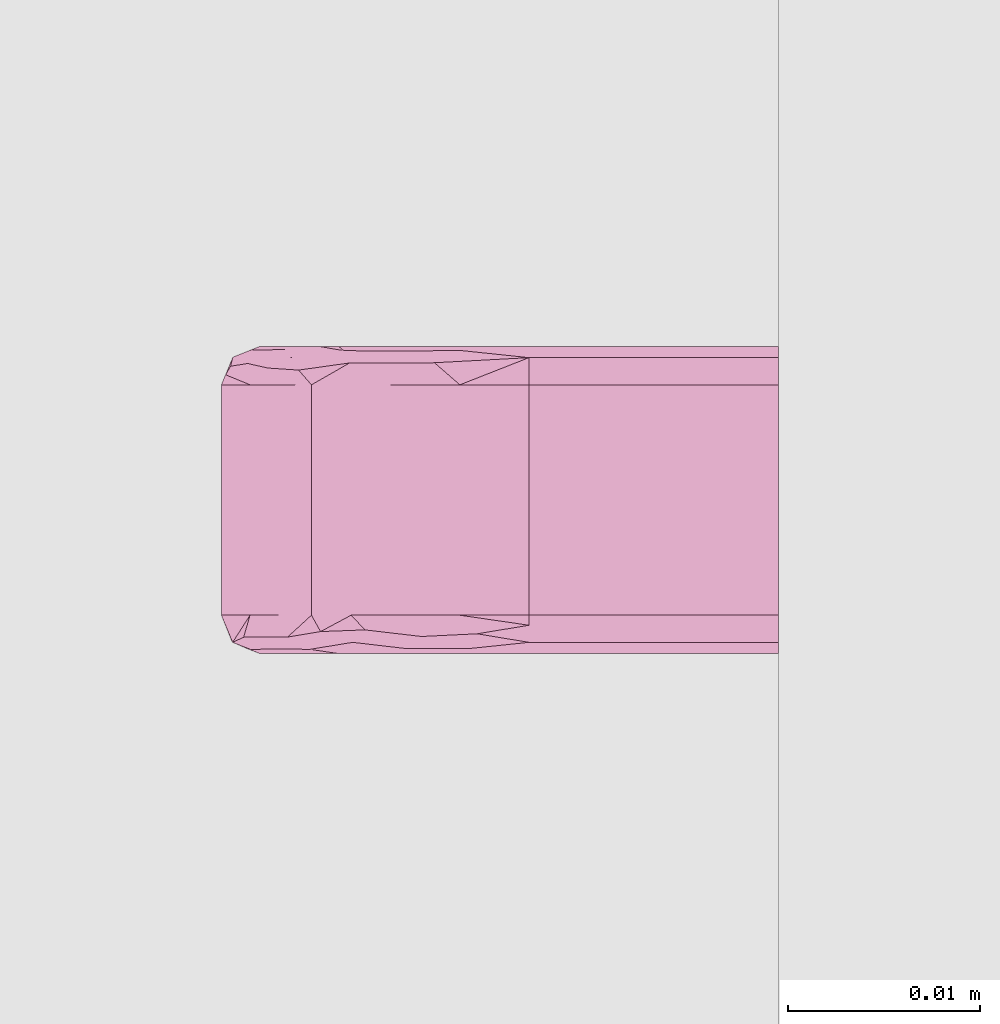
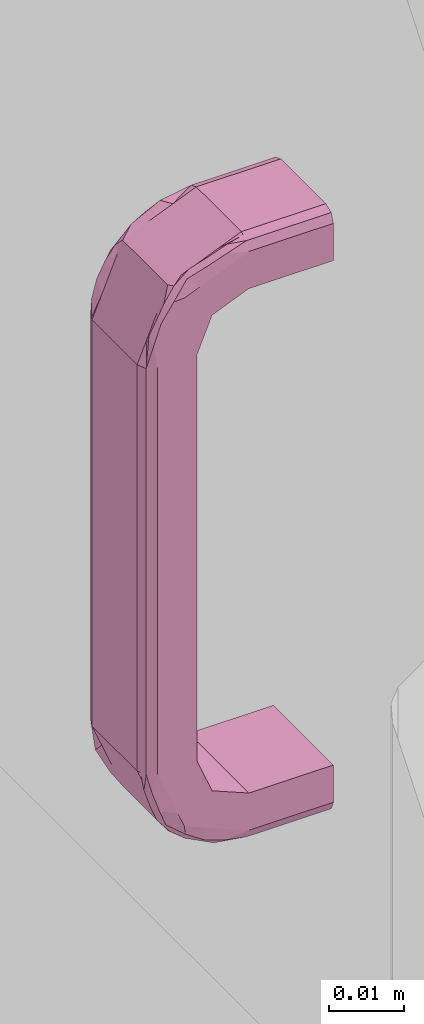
# One storey, part 51 of 65: 1 furnishing.
"""IFC2X3 building model written with IfcOpenShell, lengths in millimetres."""

from ifc_helpers import new_model, entity, si_unit, converted_unit, direction, frame, origin, place, context, subcontext, project, spatial, faceted_brep, source, transform, mapped, material, type_object, type_shapes, element, save


model = new_model("IFC2X3")

# Units and contexts
model_context = context("Model", 3, precision=0.01, world=origin(), true_north=direction((0.0, 1.0)))
body_context = subcontext(model_context, "Body", "Model", "MODEL_VIEW")
ifc_project = project(units=[si_unit("LENGTHUNIT", "METRE", prefix="MILLI"), si_unit("AREAUNIT", "SQUARE_METRE"), si_unit("VOLUMEUNIT", "CUBIC_METRE"), converted_unit("PLANEANGLEUNIT", "DEGREE", entity("IfcPlaneAngleMeasure", 0.017453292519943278), si_unit("PLANEANGLEUNIT", "RADIAN"), dimensions=[0, 0, 0, 0, 0, 0, 0])], contexts=[model_context])

# Site, building, storey, space
site_placement = place(None, origin())
site = spatial("IfcSite", under=ifc_project, at=site_placement, Name="Default", CompositionType="ELEMENT")
building_placement = place(site_placement, origin())
building = spatial("IfcBuilding", under=site, at=building_placement, CompositionType="ELEMENT")
storey_placement = place(building_placement, origin())
storey = spatial("IfcBuildingStorey", under=building, at=storey_placement, Name="Et. 1", CompositionType="ELEMENT", Elevation=0.0)
space_placement = place(storey_placement, origin())
space = spatial("IfcSpace", under=storey, at=space_placement, Name="113", CompositionType="ELEMENT", InteriorOrExteriorSpace="INTERNAL")

# Furnishing
ifc_material = material(Name="Focus - Kjøkken - Håndtak")
furniture_type = type_object("IfcFurnitureType", Name="Focus - Håndtak Skap:Håndtak skap", AssemblyPlace="NOTDEFINED", material=ifc_material)
shared_shape = source(origin(), body_context, "Body", "Brep", [
    faceted_brep([(-8.0, 0.0, 2.021099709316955), (-8.0, 0.0, -4.0210997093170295), (8.0, 0.0, -4.0210997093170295), (8.0, 0.0, 2.0210997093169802), (7.414213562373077, 0.0, 3.435313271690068), (6.0, 0.0, 4.021099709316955), (-6.0, 0.0, 4.021099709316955), (-7.414213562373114, 0.0, 3.435313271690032), (-6.0, 0.0, -94.02109970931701), (6.0, 0.0, -94.02109970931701), (7.414213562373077, 0.0, -93.43531327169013), (8.0, 0.0, -92.02109970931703), (8.0, 0.0, -85.97890029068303), (-8.0, 0.0, -85.97890029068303), (-8.0, 0.0, -92.02109970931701), (-7.414213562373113, 0.0, -93.43531327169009), (7.414213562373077, 13.0, 3.4353132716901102), (6.0, 13.0, 4.021099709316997), (8.0, 13.0, 2.0210997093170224), (7.707106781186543, 13.0, 2.728206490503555), (8.0, 13.0, -4.021099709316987), (8.0, 18.641934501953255, -6.358065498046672), (8.0, 20.97890029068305, -12.0), (8.0, 20.978900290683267, -78.0), (8.0, 18.64193450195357, -83.64193450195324), (8.0, 13.0, -85.97890029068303), (8.0, 13.0, -92.02109970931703), (8.0, 15.478603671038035, -90.99442845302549), (8.0, 17.957207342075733, -89.96775719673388), (8.0, 20.435811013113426, -88.94108594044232), (8.0, 22.914414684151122, -87.91441468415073), (8.0, 24.221910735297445, -84.75783998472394), (8.0, 25.52940678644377, -81.60126528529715), (8.0, 27.021099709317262, -78.0), (8.0, 27.021099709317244, -65.65496001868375), (8.0, 27.021099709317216, -57.34504034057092), (8.0, 27.02109970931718, -47.01756015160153), (8.0, 27.02109970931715, -36.69007996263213), (8.0, 27.021099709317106, -24.345039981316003), (8.0, 27.021099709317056, -12.0), (8.0, 25.994428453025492, -9.521396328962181), (8.0, 24.967757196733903, -7.042792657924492), (8.0, 23.941085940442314, -4.564188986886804), (8.0, 22.914414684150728, -2.0855853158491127), (8.0, 19.757839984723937, -0.7780892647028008), (8.0, 16.60126528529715, 0.5294067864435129), (-8.0, 13.0, -4.021099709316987), (-8.0, 13.0, -92.021099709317), (-8.0, 13.0, -85.97890029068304), (-8.0, 18.64193450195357, -83.64193450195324), (-8.0, 20.978900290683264, -78.0), (-8.0, 20.978900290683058, -12.0), (-8.0, 18.641934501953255, -6.358065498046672), (-8.0, 13.0, 2.0210997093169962), (-8.0, 15.478603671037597, 0.9944284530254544), (-8.0, 17.9572073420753, -0.032242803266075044), (-8.0, 20.435811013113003, -1.0589140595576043), (-8.0, 22.914414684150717, -2.0855853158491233), (-8.0, 24.221910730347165, -5.242160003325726), (-8.0, 25.529406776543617, -8.398734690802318), (-8.0, 27.021099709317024, -12.0), (-8.0, 27.021099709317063, -24.345040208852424), (-8.0, 27.0210997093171, -34.67252000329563), (-8.0, 27.02109970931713, -44.99999979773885), (-8.0, 27.021099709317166, -55.32747999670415), (-8.0, 27.0210997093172, -65.65496019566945), (-8.0, 27.021099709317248, -78.0), (-8.0, 25.99442845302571, -80.47860367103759), (-8.0, 24.967757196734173, -82.9572073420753), (-8.0, 23.941085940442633, -85.43581101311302), (-8.0, 22.914414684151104, -87.91441468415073), (-8.0, 19.757839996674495, -89.22191073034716), (-8.0, 16.601265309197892, -90.52940677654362), (-7.414213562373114, 13.0, 3.4353132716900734), (-6.0, 13.0, 4.021099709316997), (-6.523051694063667, 13.0, 3.804444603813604), (7.761199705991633, 19.75591670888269, 1.3575143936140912), (7.776828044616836, 22.64140257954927, -0.588486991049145), (7.832026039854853, 25.954055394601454, -4.794062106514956), (6.765366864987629, 25.00295364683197, -1.6197407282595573), (6.0, 25.18317105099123, -2.734420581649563), (6.0, 24.3286282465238, -0.6713717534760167), (7.148530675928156, 17.923500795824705, 2.864246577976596), (7.138822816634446, 22.341444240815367, 0.575216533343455), (6.0, 20.202530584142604, 1.03771385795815), (7.108929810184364, 27.65191997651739, -6.400304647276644), (6.0, 27.52940678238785, -8.39873470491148), (6.0, 26.674863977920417, -6.335685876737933), (6.0, 26.037713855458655, -4.797469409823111), (6.873580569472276, 26.59747716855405, -3.913704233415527), (6.0, 25.501746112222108, -3.5035288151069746), (7.807346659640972, 27.454202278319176, -8.476170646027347), (7.78360390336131, 16.52927433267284, 2.502698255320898), (6.0, 16.60126529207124, 2.529406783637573), (7.414213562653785, 25.4087319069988, -2.820007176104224), (6.0, 21.496471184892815, 0.5017461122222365), (6.968390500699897, 28.538770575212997, -9.30339655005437), (6.523051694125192, 28.80444460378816, -12.0), (6.0, 29.021099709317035, -12.0), (6.0, 27.847981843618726, -9.167842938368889), (7.414213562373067, 28.43531327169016, -12.0), (6.0, 18.664314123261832, 1.67486397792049), (-6.0, 15.832157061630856, 2.8479818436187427), (-6.0, 16.601265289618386, 2.529406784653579), (-7.76119969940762, 26.357514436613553, -5.2440833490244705), (-7.783603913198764, 27.502698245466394, -8.470725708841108), (-7.10892981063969, 18.599695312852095, 2.651919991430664), (-6.0, 18.664314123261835, 1.67486397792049), (-6.0, 20.202530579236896, 1.0377138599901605), (-7.744591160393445, 19.340507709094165, 1.5930015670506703), (-7.730939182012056, 16.04875454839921, 2.7104148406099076), (-6.76536686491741, 21.540484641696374, 1.3746327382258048), (-6.0, 21.496471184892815, 0.5017461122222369), (-6.0, 22.265579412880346, 0.18317105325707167), (-7.13882282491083, 25.57521654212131, -2.658555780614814), (-7.1485306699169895, 27.864246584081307, -7.076499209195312), (-6.0, 26.037713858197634, -4.797469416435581), (-7.414213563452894, 22.17999279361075, 0.4087319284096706), (-7.776828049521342, 24.411513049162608, -2.35859748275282), (-6.853012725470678, 23.855367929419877, -0.47819170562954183), (-6.0, 27.52940678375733, -8.398734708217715), (-7.414213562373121, 28.43531327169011, -12.0), (-6.0, 24.3286282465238, -0.6713717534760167), (-6.0, 25.501746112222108, -3.503528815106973), (-7.7071067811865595, 27.728206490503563, -12.0), (-6.96839049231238, 15.696603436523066, 3.5387705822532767), (-6.0, 29.021099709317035, -12.0), (-6.0, 26.674863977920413, -6.335685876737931), (7.414213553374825, 28.435313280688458, -29.508780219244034), (7.450985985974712, 28.39755881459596, -41.85381987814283), (6.0, 29.02109970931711, -34.6725200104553), (7.414213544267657, 28.435313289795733, -61.499999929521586), (7.4142135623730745, 28.435313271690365, -78.0), (6.0, 29.021099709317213, -65.65496164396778), (6.0, 29.02109970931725, -78.0), (6.0, 29.02109970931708, -24.345039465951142), (7.707106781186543, 27.728206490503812, -78.0), (6.0, 29.021099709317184, -55.32748109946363), (6.0, 29.02109970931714, -45.00000055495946), (-6.0, 29.02109970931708, -24.345039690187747), (-6.0, 29.02109970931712, -36.69007989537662), (-7.414213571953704, 28.43531326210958, -29.508780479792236), (-7.41421357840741, 28.435313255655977, -61.4999999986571), (-7.414213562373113, 28.43531327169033, -78.0), (-7.3764591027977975, 28.472085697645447, -41.85382016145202), (-6.0, 29.02109970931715, -47.0175595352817), (-6.0, 29.02109970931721, -65.65495979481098), (-6.0, 29.02109970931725, -78.0), (-6.523051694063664, 28.80444460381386, -78.0), (-6.0, 29.021099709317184, -57.345039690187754), (7.7611997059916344, 26.35751439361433, -84.75591670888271), (7.776828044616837, 24.411513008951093, -87.64140257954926), (7.832026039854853, 20.205937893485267, -90.95405539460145), (7.138822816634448, 25.575216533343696, -87.34144424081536), (6.7653668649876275, 23.380259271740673, -90.00295364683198), (6.0, 24.328628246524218, -89.32862824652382), (7.148530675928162, 27.864246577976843, -82.92350079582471), (6.0, 26.037713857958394, -85.2025305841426), (7.108929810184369, 18.599695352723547, -92.6519199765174), (6.0, 16.60126529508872, -92.52940678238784), (6.0, 18.66431412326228, -91.67486397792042), (6.0, 20.202530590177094, -91.03771385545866), (6.0, 22.265579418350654, -90.18317105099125), (7.807346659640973, 16.523829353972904, -92.45420227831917), (7.783603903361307, 27.50269825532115, -81.52927433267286), (6.0, 27.529406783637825, -81.60126529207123), (6.873580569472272, 21.08629576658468, -91.59747716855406), (7.414213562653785, 22.179992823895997, -90.40873190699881), (6.0, 25.50174611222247, -86.49647118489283), (6.968390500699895, 15.69660344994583, -93.538770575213), (6.52305169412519, 13.0, -93.80444460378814), (6.0, 13.0, -94.02109970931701), (6.0, 15.832157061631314, -92.84798184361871), (7.414213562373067, 13.0, -93.43531327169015), (6.0, 26.67486397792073, -83.66431412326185), (6.0, 21.49647118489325, -90.50174611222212), (-6.0, 27.847981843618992, -80.83215706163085), (-6.0, 27.529406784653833, -81.60126528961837), (-7.761199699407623, 19.75591665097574, -91.35751443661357), (-7.783603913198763, 16.529274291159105, -92.50269824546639), (-7.108929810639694, 27.651919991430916, -83.59969531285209), (-6.0, 26.674863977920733, -83.66431412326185), (-6.0, 26.037713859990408, -85.20253057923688), (-7.74459116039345, 26.593001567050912, -84.34050770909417), (-7.730939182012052, 27.71041484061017, -81.04875454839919), (-6.76536686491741, 26.374632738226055, -86.54048464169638), (-6.0, 25.50174611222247, -86.49647118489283), (-6.0, 25.183171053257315, -87.26557941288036), (-7.138822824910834, 22.341444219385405, -90.57521654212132), (-7.148530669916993, 17.923500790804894, -92.8642465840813), (-6.0, 20.202530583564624, -91.03771385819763), (-7.414213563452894, 25.40873192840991, -87.17999279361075), (-7.7768280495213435, 22.641402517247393, -89.41151304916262), (-6.853012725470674, 24.521808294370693, -88.8553679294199), (-6.0, 16.60126529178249, -92.52940678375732), (-7.41421356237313, 13.0, -93.43531327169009), (-6.0, 24.328628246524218, -89.32862824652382), (-6.0, 21.49647118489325, -90.50174611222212), (-7.707106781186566, 13.0, -92.72820649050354), (-6.96839049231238, 28.538770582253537, -80.69660343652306), (-6.0, 13.0, -94.02109970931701), (-6.0, 18.66431412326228, -91.67486397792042)], [[[0, 1, 2, 3, 4, 5, 6, 7]], [[8, 9, 10, 11, 12, 13, 14, 15]], [[5, 4, 16, 17]], [[3, 18, 19, 16, 4]], [[18, 3, 2, 20, 21, 22, 23, 24, 25, 12, 11, 26, 27, 28, 29, 30, 31, 32, 33, 34, 35, 36, 37, 38, 39, 40, 41, 42, 43, 44, 45]], [[20, 2, 1, 46]], [[47, 14, 13, 48, 49, 50, 51, 52, 46, 1, 0, 53, 54, 55, 56, 57, 58, 59, 60, 61, 62, 63, 64, 65, 66, 67, 68, 69, 70, 71, 72]], [[0, 7, 73, 53]], [[6, 74, 75, 73, 7]], [[17, 74, 6, 5]], [[76, 44, 77]], [[42, 41, 78]], [[79, 80, 81]], [[82, 83, 84]], [[85, 86, 87, 88]], [[89, 88, 90, 80]], [[78, 41, 91]], [[45, 76, 92]], [[82, 93, 16]], [[85, 89, 94]], [[83, 81, 95, 84]], [[96, 97, 86]], [[83, 82, 76]], [[78, 77, 42]], [[79, 94, 89]], [[42, 77, 43]], [[82, 16, 92]], [[92, 16, 19, 18]], [[97, 98, 99, 86]], [[91, 39, 100]], [[83, 76, 77]], [[92, 18, 45]], [[83, 77, 94]], [[43, 77, 44]], [[76, 45, 44]], [[92, 76, 82]], [[17, 16, 93]], [[82, 84, 101, 93]], [[79, 83, 94]], [[79, 81, 83]], [[79, 89, 80]], [[89, 85, 88]], [[78, 94, 77]], [[78, 85, 94]], [[85, 78, 91]], [[91, 96, 85]], [[40, 39, 91, 41]], [[100, 97, 96]], [[100, 96, 91]], [[85, 96, 86]], [[20, 46, 52, 21]], [[52, 51, 22, 21]], [[75, 74, 102, 103]], [[59, 104, 105]], [[106, 103, 107, 108]], [[106, 109, 110]], [[111, 108, 112, 113]], [[114, 115, 104]], [[116, 115, 114]], [[117, 56, 109]], [[104, 58, 118]], [[117, 109, 106]], [[111, 119, 117]], [[115, 120, 121]], [[114, 122, 123, 116]], [[119, 111, 113]], [[118, 117, 119]], [[56, 118, 57]], [[115, 121, 105]], [[105, 121, 124, 60]], [[73, 125, 110]], [[106, 110, 125]], [[114, 104, 118]], [[105, 60, 59]], [[119, 114, 118]], [[57, 118, 58]], [[104, 59, 58]], [[105, 104, 115]], [[126, 121, 120]], [[115, 116, 127, 120]], [[111, 106, 108]], [[111, 117, 106]], [[119, 122, 114]], [[122, 119, 113]], [[117, 118, 56]], [[73, 75, 125]], [[125, 75, 103]], [[106, 125, 103]], [[110, 53, 73]], [[109, 56, 55, 54]], [[54, 110, 109]], [[54, 53, 110]], [[123, 122, 81, 80, 90, 88, 87, 86, 99, 98, 126, 120, 127, 116]], [[81, 122, 113, 112, 108, 107, 103, 102, 74, 17, 93, 101, 84, 95]], [[100, 38, 37, 128]], [[128, 129, 130]], [[131, 129, 36]], [[131, 132, 133]], [[132, 134, 133]], [[135, 98, 97, 100]], [[135, 100, 128, 130]], [[131, 36, 35, 34]], [[34, 33, 136, 132]], [[100, 39, 38]], [[132, 131, 34]], [[131, 137, 129]], [[36, 129, 37]], [[129, 137, 138, 130]], [[129, 128, 37]], [[131, 133, 137]], [[23, 22, 51, 50]], [[121, 139, 140, 141]], [[142, 143, 65]], [[142, 144, 145]], [[146, 147, 148, 143]], [[121, 126, 139]], [[143, 66, 65]], [[61, 60, 124, 121]], [[61, 121, 141, 62]], [[142, 145, 149, 146]], [[141, 144, 62]], [[143, 142, 146]], [[142, 64, 144]], [[145, 144, 140]], [[144, 64, 63, 62]], [[144, 141, 140]], [[142, 65, 64]], [[126, 98, 135, 130, 138, 137, 133, 134, 147, 146, 149, 145, 140, 139]], [[150, 31, 151]], [[29, 28, 152]], [[153, 154, 155]], [[156, 153, 157]], [[158, 159, 160, 161]], [[162, 155, 154]], [[152, 28, 163]], [[32, 150, 164]], [[156, 165, 132]], [[158, 166, 167]], [[153, 155, 168, 157]], [[169, 170, 159]], [[153, 156, 150]], [[152, 151, 29]], [[154, 167, 166]], [[29, 151, 30]], [[156, 132, 164]], [[164, 132, 136, 33]], [[170, 171, 172, 159]], [[163, 26, 173]], [[153, 150, 151]], [[164, 33, 32]], [[153, 151, 167]], [[30, 151, 31]], [[150, 32, 31]], [[164, 150, 156]], [[134, 132, 165]], [[156, 157, 174, 165]], [[166, 161, 175, 162]], [[167, 154, 153]], [[154, 166, 162]], [[166, 158, 161]], [[152, 167, 151]], [[152, 158, 167]], [[158, 152, 163]], [[163, 169, 158]], [[27, 26, 163, 28]], [[173, 170, 169]], [[173, 169, 163]], [[158, 169, 159]], [[23, 50, 49, 24]], [[49, 48, 25, 24]], [[148, 147, 176, 177]], [[72, 178, 179]], [[180, 177, 181, 182]], [[180, 183, 184]], [[185, 182, 186, 187]], [[188, 189, 178]], [[190, 189, 188]], [[191, 69, 183]], [[178, 71, 192]], [[191, 183, 180]], [[185, 193, 191]], [[189, 194, 195]], [[188, 196, 197, 190]], [[193, 185, 187]], [[192, 191, 193]], [[69, 192, 70]], [[189, 195, 179]], [[179, 195, 198, 47]], [[143, 199, 184]], [[180, 184, 199]], [[188, 178, 192]], [[179, 47, 72]], [[193, 188, 192]], [[70, 192, 71]], [[178, 72, 71]], [[179, 178, 189]], [[200, 195, 194]], [[189, 190, 201, 194]], [[185, 180, 182]], [[185, 191, 180]], [[193, 196, 188]], [[196, 193, 187]], [[191, 192, 69]], [[143, 148, 199]], [[199, 148, 177]], [[180, 199, 177]], [[184, 66, 143]], [[183, 69, 68, 67]], [[67, 184, 183]], [[67, 66, 184]], [[197, 196, 155, 162, 175, 161, 160, 159, 172, 171, 200, 194, 201, 190]], [[155, 196, 187, 186, 182, 181, 177, 176, 147, 134, 165, 174, 157, 168]], [[171, 170, 173, 10, 9]], [[26, 11, 10, 173]], [[13, 12, 25, 48]], [[47, 198, 195, 15, 14]], [[200, 8, 15, 195]], [[8, 200, 171, 9]]]),
])
type_shapes(furniture_type, [shared_shape])
furnishing_placement = place(space_placement, frame((33549.00958675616, 9094.18095768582, 1440.0), z_axis=(0.0, 0.0, 1.0), x_axis=(0.0, 1.0, 0.0)))
element("IfcFurnishingElement", 1, at=furnishing_placement, inside=space, type_object=furniture_type, material=ifc_material, Name="Focus - Håndtak Skap:Håndtak skap", context=body_context, shape_type="MappedRepresentation", body=[
    mapped(shared_shape, transform((0.0, 0.0, 0.0), scale=1.0)),
])

save(model, "model.ifc")
